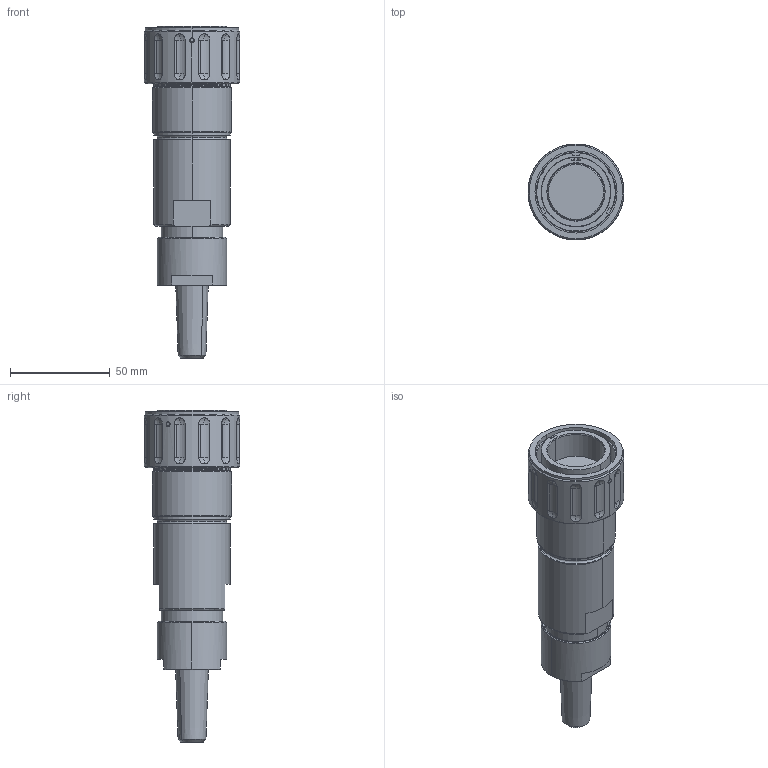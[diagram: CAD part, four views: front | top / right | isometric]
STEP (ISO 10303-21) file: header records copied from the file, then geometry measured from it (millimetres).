
FILE_DESCRIPTION (( 'STEP AP214' ), '1' );
FILE_NAME ('QLINK-PGBX-23XX-SXXX-RA.STEP', '2025-12-09T15:40:06', ( '' ), ( '' ), 'SwSTEP 2.0', 'SolidWorks 2024', '' );
FILE_SCHEMA (( 'AUTOMOTIVE_DESIGN' ));
Length unit declared in the file: millimetre
Products named in the file (1): QLINK-PGBX-23XX-SXXX-RA
Bounding box: 48.06 x 48.06 x 166.39 mm (x, y, z)
Volume: 147685.9 mm3; surface area: 31233.7 mm2
Topology: 5 solids, 5 shells, 265 faces, 624 edges, 398 vertices
Faces by surface type: cylinder 93, plane 64, sphere 48, cone 43, torus 12, bspline 5
Entity records: 10330 total; most frequent: CARTESIAN_POINT 4124, DIRECTION 1343, ORIENTED_EDGE 1248, EDGE_CURVE 624, AXIS2_PLACEMENT_3D 560, VERTEX_POINT 398, EDGE_LOOP 302, CIRCLE 299
